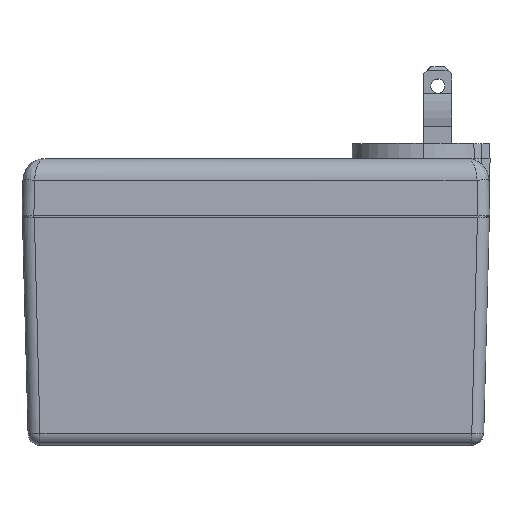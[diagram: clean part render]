
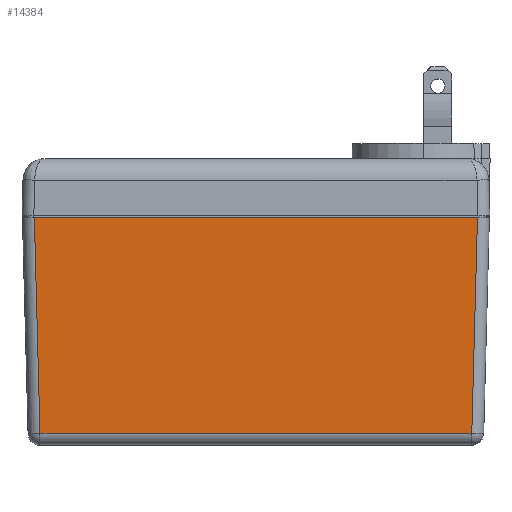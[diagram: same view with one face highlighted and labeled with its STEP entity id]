
A CAD part, top view. The second image highlights one B-rep face of the part: STEP entity #14384.
In plain terms, the highlighted planar face has unit normal (0, -0.026, 1).
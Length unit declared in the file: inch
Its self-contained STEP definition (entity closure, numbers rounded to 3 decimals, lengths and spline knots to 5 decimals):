
#852 = FACE_OUTER_BOUND ( 'NONE', #17499, .T. ) ;
#1050 = VECTOR ( 'NONE', #5436, 39.37008 ) ;
#1069 = VECTOR ( 'NONE', #5431, 39.37008 ) ;
#1070 = LINE ( 'NONE', #5432, #1069 ) ;
#1073 = VECTOR ( 'NONE', #5433, 39.37008 ) ;
#1074 = LINE ( 'NONE', #5437, #1050 ) ;
#1075 = LINE ( 'NONE', #5434, #1073 ) ;
#1110 = LINE ( 'NONE', #5485, #1115 ) ;
#1115 = VECTOR ( 'NONE', #5476, 39.37008 ) ;
#5217 = CARTESIAN_POINT ( 'NONE',  ( 1.89971, -1.90275, 1.06617 ) ) ;
#5220 = CARTESIAN_POINT ( 'NONE',  ( -1.94954, 0., 1.116 ) ) ;
#5243 = CARTESIAN_POINT ( 'NONE',  ( 1.94954, 0., 1.116 ) ) ;
#5431 = DIRECTION ( 'NONE',  ( 1., 0., 0. ) ) ;
#5432 = CARTESIAN_POINT ( 'NONE',  ( -2.0545, 0., 1.116 ) ) ;
#5433 = DIRECTION ( 'NONE',  ( 0.026, -0.999, -0.026 ) ) ;
#5434 = CARTESIAN_POINT ( 'NONE',  ( -1.94961, 0.00274, 1.11607 ) ) ;
#5436 = DIRECTION ( 'NONE',  ( 0.026, 0.999, 0.026 ) ) ;
#5437 = CARTESIAN_POINT ( 'NONE',  ( 1.94679, -0.10471, 1.11326 ) ) ;
#5476 = DIRECTION ( 'NONE',  ( 1., 0., 0. ) ) ;
#5485 = CARTESIAN_POINT ( 'NONE',  ( -2.0545, -1.90275, 1.06617 ) ) ;
#7191 = AXIS2_PLACEMENT_3D ( 'NONE', #8961, #8951, #8950 ) ;
#8314 = CARTESIAN_POINT ( 'NONE',  ( -1.89971, -1.90275, 1.06617 ) ) ;
#8950 = DIRECTION ( 'NONE',  ( 0., -1., -0.026 ) ) ;
#8951 = DIRECTION ( 'NONE',  ( 0., -0.026, 1. ) ) ;
#8955 = PLANE ( 'NONE',  #7191 ) ;
#8961 = CARTESIAN_POINT ( 'NONE',  ( -2.0545, 0., 1.116 ) ) ;
#11134 = EDGE_CURVE ( 'NONE', #12792, #12278, #1110, .T. ) ;
#11148 = EDGE_CURVE ( 'NONE', #12278, #12229, #1074, .T. ) ;
#11149 = EDGE_CURVE ( 'NONE', #12272, #12792, #1075, .T. ) ;
#11150 = EDGE_CURVE ( 'NONE', #12272, #12229, #1070, .T. ) ;
#12229 = VERTEX_POINT ( 'NONE', #5243 ) ;
#12272 = VERTEX_POINT ( 'NONE', #5220 ) ;
#12278 = VERTEX_POINT ( 'NONE', #5217 ) ;
#12792 = VERTEX_POINT ( 'NONE', #8314 ) ;
#14384 = ADVANCED_FACE ( 'NONE', ( #852 ), #8955, .T. ) ;
#16452 = ORIENTED_EDGE ( 'NONE', *, *, #11134, .T. ) ;
#16453 = ORIENTED_EDGE ( 'NONE', *, *, #11148, .T. ) ;
#16454 = ORIENTED_EDGE ( 'NONE', *, *, #11150, .F. ) ;
#16455 = ORIENTED_EDGE ( 'NONE', *, *, #11149, .T. ) ;
#17499 = EDGE_LOOP ( 'NONE', ( #16452, #16453, #16454, #16455 ) ) ;
